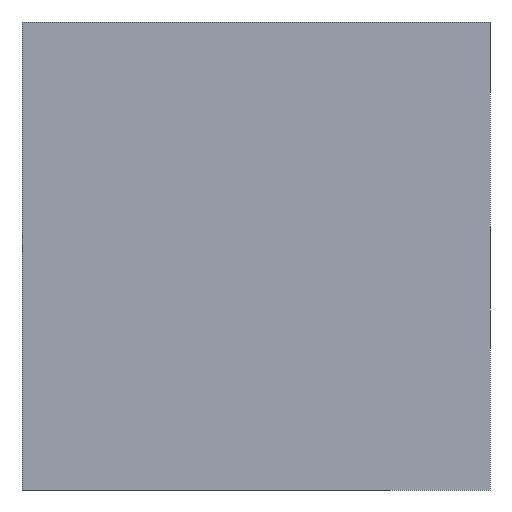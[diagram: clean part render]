
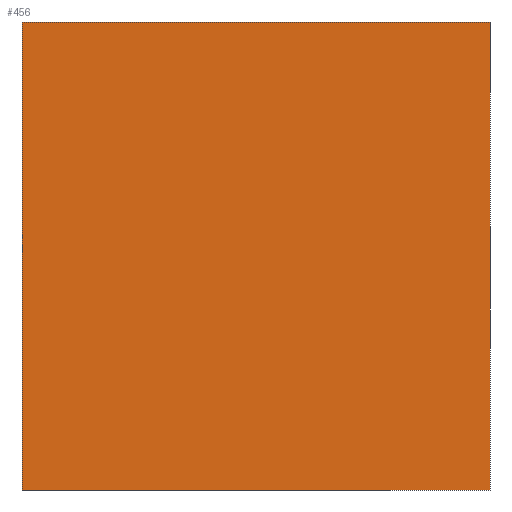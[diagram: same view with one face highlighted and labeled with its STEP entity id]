
A CAD part, left-side view. The second image highlights one B-rep face of the part: STEP entity #456.
In plain terms, the highlighted planar face has unit normal (-1, 0, 0).
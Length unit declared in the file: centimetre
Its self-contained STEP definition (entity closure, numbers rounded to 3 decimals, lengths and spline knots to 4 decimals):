
#11 = ORIENTED_EDGE ( 'NONE', *, *, #256, .F. ) ;
#77 = DIRECTION ( 'NONE',  ( 1., 0., 0. ) ) ;
#87 = CARTESIAN_POINT ( 'NONE',  ( 0., 0., 0. ) ) ;
#102 = DIRECTION ( 'NONE',  ( 0., 0., -1. ) ) ;
#140 = VECTOR ( 'NONE', #102, 100. ) ;
#143 = DIRECTION ( 'NONE',  ( 0., 0., -1. ) ) ;
#182 = CARTESIAN_POINT ( 'NONE',  ( 0., 0., 1000. ) ) ;
#186 = CARTESIAN_POINT ( 'NONE',  ( 0., 1000., 0. ) ) ;
#215 = VERTEX_POINT ( 'NONE', #87 ) ;
#229 = LINE ( 'NONE', #182, #304 ) ;
#244 = CARTESIAN_POINT ( 'NONE',  ( 0., 1000., 1000. ) ) ;
#256 = EDGE_CURVE ( 'NONE', #630, #215, #229, .T. ) ;
#278 = EDGE_CURVE ( 'NONE', #381, #215, #347, .T. ) ;
#288 = DIRECTION ( 'NONE',  ( 0., -1., 0. ) ) ;
#299 = DIRECTION ( 'NONE',  ( 0., -1., 0. ) ) ;
#304 = VECTOR ( 'NONE', #143, 100. ) ;
#314 = CARTESIAN_POINT ( 'NONE',  ( 0., 1000., 1000. ) ) ;
#338 = FACE_OUTER_BOUND ( 'NONE', #369, .T. ) ;
#347 = LINE ( 'NONE', #186, #635 ) ;
#351 = CARTESIAN_POINT ( 'NONE',  ( 0., 0., 1000. ) ) ;
#369 = EDGE_LOOP ( 'NONE', ( #538, #11, #425, #492 ) ) ;
#371 = EDGE_CURVE ( 'NONE', #405, #381, #417, .T. ) ;
#381 = VERTEX_POINT ( 'NONE', #414 ) ;
#391 = PLANE ( 'NONE',  #499 ) ;
#405 = VERTEX_POINT ( 'NONE', #314 ) ;
#412 = VECTOR ( 'NONE', #288, 100. ) ;
#414 = CARTESIAN_POINT ( 'NONE',  ( 0., 1000., 0. ) ) ;
#417 = LINE ( 'NONE', #468, #140 ) ;
#425 = ORIENTED_EDGE ( 'NONE', *, *, #439, .F. ) ;
#439 = EDGE_CURVE ( 'NONE', #405, #630, #643, .T. ) ;
#442 = CARTESIAN_POINT ( 'NONE',  ( 0., 1000., 1000. ) ) ;
#456 = ADVANCED_FACE ( 'NONE', ( #338 ), #391, .F. ) ;
#468 = CARTESIAN_POINT ( 'NONE',  ( 0., 1000., 1000. ) ) ;
#492 = ORIENTED_EDGE ( 'NONE', *, *, #371, .T. ) ;
#499 = AXIS2_PLACEMENT_3D ( 'NONE', #244, #77, #544 ) ;
#538 = ORIENTED_EDGE ( 'NONE', *, *, #278, .T. ) ;
#544 = DIRECTION ( 'NONE',  ( 0., 0., -1. ) ) ;
#630 = VERTEX_POINT ( 'NONE', #351 ) ;
#635 = VECTOR ( 'NONE', #299, 100. ) ;
#643 = LINE ( 'NONE', #442, #412 ) ;
